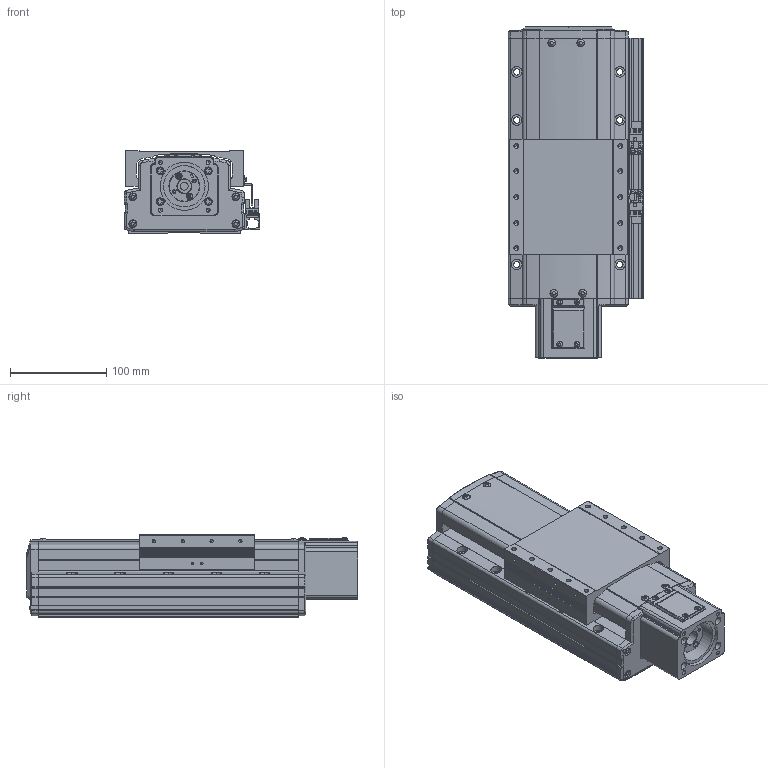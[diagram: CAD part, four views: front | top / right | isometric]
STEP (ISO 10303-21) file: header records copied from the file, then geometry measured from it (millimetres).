
FILE_DESCRIPTION(('STEP AP214'),'1');
FILE_NAME('Z:/Web/3D/PSA125/STP/PSA125-050 (3D)/PSA125ㅁㅁ-050S+2SR.stp','2014-06-18T08:18:28',(' '),(' '),'Spatial InterOp 3D',' ',' ');
FILE_SCHEMA(('automotive_design'));
Length unit declared in the file: millimetre
Products named in the file (49): 스크루 : Round - M4.0 x 10.0; RRCV-PA120; SLIDE; BASE; FRCV-PA120-1(기준 뿔 제거); RR1500; 스크루 : Round - M4.0 x 6.0; 너트 : Square - M10.0 x 220.7419; SSFX-SAN65; CPLCV-SAN65; 스크루 : Round - M3.0 x 6.0; MTHZ-PA120-S60A-3; 스크루 : Socket - M4.0 x 20.0; FRCV; NONE; EE-SX674; SBK-SX674-352; M3.0 x 6.0; SRL-16x17-380L; SGD-PA95; 스크루 : Round - M3.0 x 8.0
Bounding box: 141 x 344.6 x 86 mm (x, y, z)
Volume: 2781263.4 mm3; surface area: 369649.7 mm2
Topology: 49 solids, 83 shells, 3444 faces, 8822 edges, 5590 vertices
Faces by surface type: plane 1721, cylinder 1029, cone 413, torus 174, sphere 66, bspline 41
Entity records: 136022 total; most frequent: CARTESIAN_POINT 22372, DIRECTION 18520, ORIENTED_EDGE 17380, EDGE_CURVE 8690, AXIS2_PLACEMENT_3D 6610, VERTEX_POINT 5590, LINE 5300, VECTOR 5300
